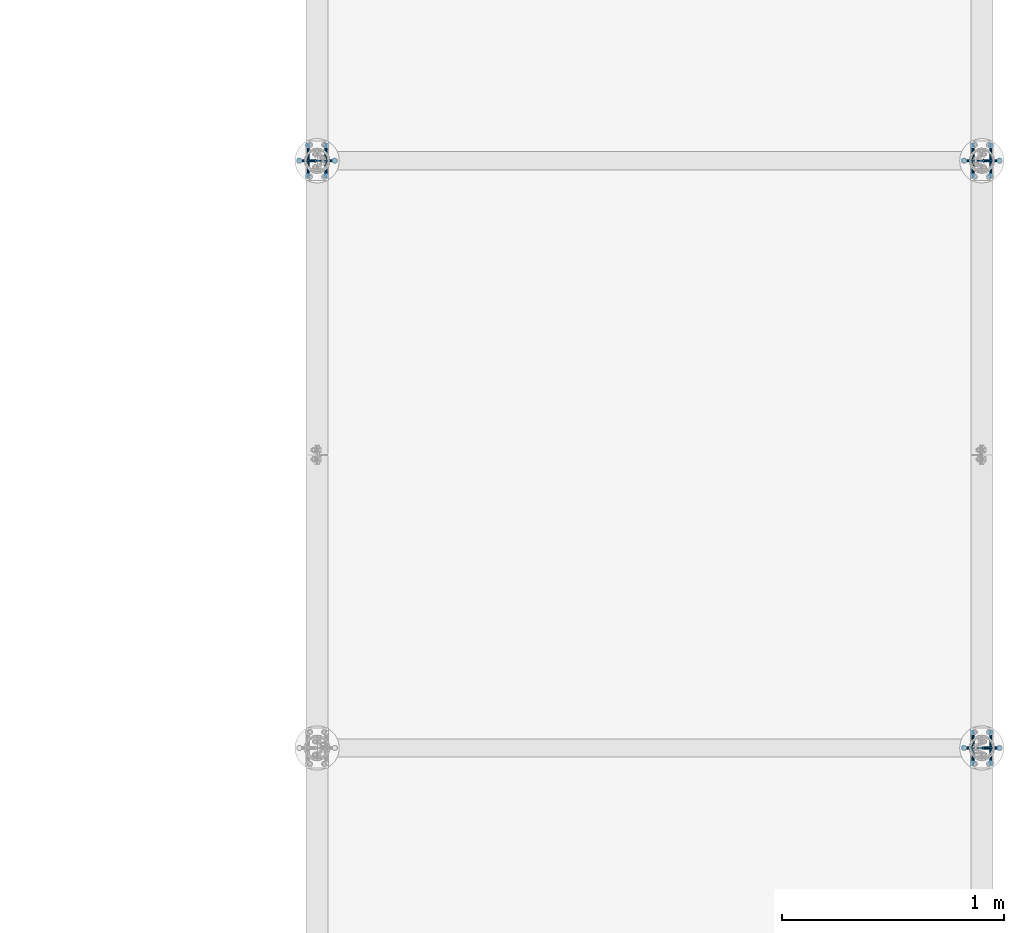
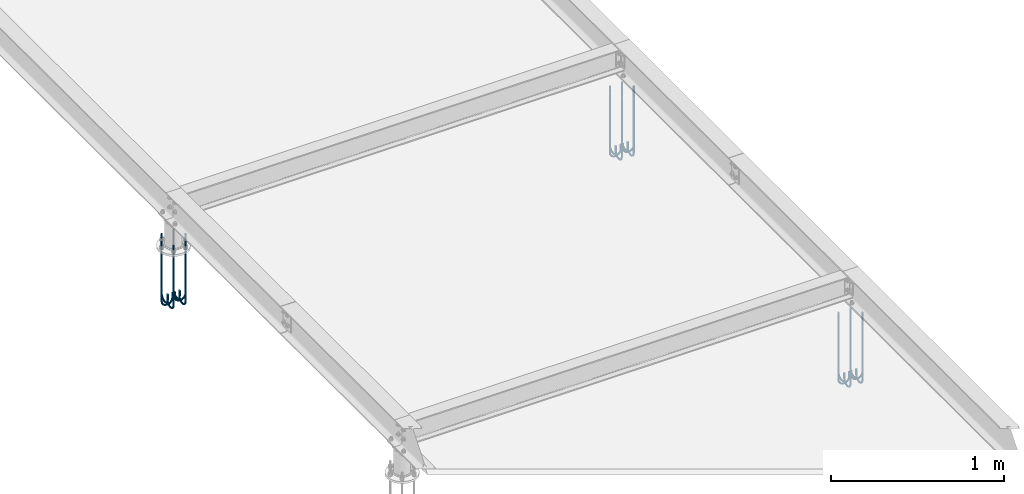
# One storey, part 11 of 84: 9 reinforcing bars.
"""IFC4 building model written with IfcOpenShell, lengths in metres."""

from ifc_helpers import new_model, entity, si_unit, frame, origin_with_axes, place, context, project, spatial, source, transform, mapped, element, save


model = new_model("IFC4")

# Units and contexts
model_context = context("Model", 3, precision=1e-05, world=origin_with_axes())
ifc_project = project(units=[si_unit("LENGTHUNIT", "METRE"), si_unit("AREAUNIT", "SQUARE_METRE"), si_unit("VOLUMEUNIT", "CUBIC_METRE"), si_unit("MASSUNIT", "GRAM", prefix="KILO"), si_unit("TIMEUNIT", "SECOND"), si_unit("PLANEANGLEUNIT", "RADIAN"), si_unit("SOLIDANGLEUNIT", "STERADIAN"), si_unit("THERMODYNAMICTEMPERATUREUNIT", "DEGREE_CELSIUS")], contexts=[model_context])

# Site, building, storey
placement_1 = place(None, origin_with_axes())
site = spatial("IfcSite", under=ifc_project, at=placement_1, Name="Italia", CompositionType="ELEMENT")
building = spatial("IfcBuilding", under=site, at=placement_1, Name="Tettoia", CompositionType="ELEMENT")
storey_placement = place(None, frame((0.0, 0.0, 4.199999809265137), z_axis=(0.0, 0.0, 1.0), x_axis=(1.0, 0.0, 0.0)))
storey = spatial("IfcBuildingStorey", under=building, at=storey_placement, Name="Storey 1", CompositionType="ELEMENT", Elevation=4.199999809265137)

# Reinforcing bars
shared_shape_1 = source(origin_with_axes(), model_context, "Body", "AdvancedSweptSolid", [
    entity("IfcSweptDiskSolid", entity("IfcIndexedPolyCurve", entity("IfcCartesianPointList3D", [[11.21, 4.65, 4.065], [11.21, 4.65, 3.642]]), [entity("IfcLineIndex", [1, 2])], False), 0.006),
])
placement_2 = place(placement_1, origin_with_axes())
reinforcing_bar_1_placement = place(placement_2, origin_with_axes())
element("IfcReinforcingBar", 1, at=reinforcing_bar_1_placement, inside=storey, BarLength=0.423, CrossSectionArea=0.0001131, NominalDiameter=0.012, context=model_context, shape_type="MappedRepresentation", body=[
    mapped(shared_shape_1, transform((0.120001, -0.0692821, 0.0), x_axis=(1.0, 0.0, 0.0), y_axis=(0.0, 1.0, 0.0), z_axis=(0.0, 0.0, 1.0), scale=1.0)),
    mapped(shared_shape_1, transform((0.0400009, -0.0692821, 0.0), x_axis=(1.0, 0.0, 0.0), y_axis=(0.0, 1.0, 0.0), z_axis=(0.0, 0.0, 1.0), scale=1.0)),
    mapped(shared_shape_1, transform((0.0, 0.0, 0.0), x_axis=(1.0, 0.0, 0.0), y_axis=(0.0, 1.0, 0.0), z_axis=(0.0, 0.0, 1.0), scale=1.0)),
    mapped(shared_shape_1, transform((0.0400009, 0.0692821, 0.0), x_axis=(1.0, 0.0, 0.0), y_axis=(0.0, 1.0, 0.0), z_axis=(0.0, 0.0, 1.0), scale=1.0)),
    mapped(shared_shape_1, transform((0.120001, 0.0692821, 0.0), x_axis=(1.0, 0.0, 0.0), y_axis=(0.0, 1.0, 0.0), z_axis=(0.0, 0.0, 1.0), scale=1.0)),
    mapped(shared_shape_1, transform((0.160002, 0.0, 0.0), x_axis=(1.0, 0.0, 0.0), y_axis=(0.0, 1.0, 0.0), z_axis=(0.0, 0.0, 1.0), scale=1.0)),
])
shared_shape_2 = source(origin_with_axes(), model_context, "Body", "AdvancedSweptSolid", [
    entity("IfcSweptDiskSolid", entity("IfcIndexedPolyCurve", entity("IfcCartesianPointList3D", [[11.21, 4.65, 3.642], [11.2127, 4.65, 3.62822]]), [entity("IfcLineIndex", [1, 2])], False), 0.006),
])
reinforcing_bar_2_placement = place(placement_2, origin_with_axes())
element("IfcReinforcingBar", 2, at=reinforcing_bar_2_placement, inside=storey, BarLength=0.0140465, CrossSectionArea=0.0001131, NominalDiameter=0.012, context=model_context, shape_type="MappedRepresentation", body=[
    mapped(shared_shape_2, transform((-0.449615, 9.3, 2.70227), x_axis=(0.923852, 0.0, 0.382749), y_axis=(0.0, -1.0, 0.0), z_axis=(0.382749, 0.0, -0.923852), scale=1.0)),
    mapped(shared_shape_2, transform((0.806538, 9.3, -1.73473), x_axis=(0.707114, 0.0, 0.707099), y_axis=(0.0, -1.0, 0.0), z_axis=(0.707099, 0.0, -0.707114), scale=1.0)),
    mapped(shared_shape_2, transform((6.6, 1.04154, -7.60408), x_axis=(0.0, -2.33501e-05, 1.0), y_axis=(1.0, 0.0, 0.0), z_axis=(0.0, 1.0, 2.33501e-05), scale=1.0)),
    mapped(shared_shape_2, transform((6.6, -2.98472, -5.35458), x_axis=(0.0, 0.382639, 0.923898), y_axis=(1.0, 0.0, 0.0), z_axis=(0.0, 0.923898, -0.382639), scale=1.0)),
    mapped(shared_shape_2, transform((6.68, 5.62262, -8.14165), x_axis=(0.0, -0.382719, 0.923865), y_axis=(1.0, 0.0, 0.0), z_axis=(0.0, 0.923865, 0.382719), scale=1.0)),
    mapped(shared_shape_2, transform((6.6, 5.62262, -8.14165), x_axis=(0.0, -0.382719, 0.923865), y_axis=(1.0, 0.0, 0.0), z_axis=(0.0, 0.923865, 0.382719), scale=1.0)),
    mapped(shared_shape_2, transform((7.69241, 9.3, -7.60413), x_axis=(-3.65972e-05, 0.0, 1.0), y_axis=(0.0, -1.0, 0.0), z_axis=(1.0, 0.0, 3.65972e-05), scale=1.0)),
    mapped(shared_shape_2, transform((6.68, -5.84388, -1.73532), x_axis=(0.0, 0.707074, 0.707139), y_axis=(1.0, 0.0, 0.0), z_axis=(0.0, 0.707139, -0.707074), scale=1.0)),
    mapped(shared_shape_2, transform((6.68, -2.98472, -5.35458), x_axis=(0.0, 0.382639, 0.923898), y_axis=(1.0, 0.0, 0.0), z_axis=(0.0, 0.923898, -0.382639), scale=1.0)),
    mapped(shared_shape_2, transform((6.68, 1.04154, -7.60408), x_axis=(0.0, -2.33501e-05, 1.0), y_axis=(1.0, 0.0, 0.0), z_axis=(0.0, 1.0, 2.33501e-05), scale=1.0)),
    mapped(shared_shape_2, transform((3.66566, 9.3, -5.35429), x_axis=(0.382674, 0.0, 0.923883), y_axis=(0.0, -1.0, 0.0), z_axis=(0.923883, 0.0, -0.382674), scale=1.0)),
    mapped(shared_shape_2, transform((12.2733, 9.3, -8.14165), x_axis=(-0.382719, 0.0, 0.923865), y_axis=(0.0, -1.0, 0.0), z_axis=(0.923865, 0.0, 0.382719), scale=1.0)),
    mapped(shared_shape_2, transform((15.9, -6.6294, 0.000373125), x_axis=(0.0, 1.0, -3.32892e-05), y_axis=(-1.0, 0.0, 0.0), z_axis=(0.0, 3.32892e-05, 1.0), scale=1.0)),
    mapped(shared_shape_2, transform((6.6, -5.84388, -1.73532), x_axis=(0.0, 0.707074, 0.707139), y_axis=(1.0, 0.0, 0.0), z_axis=(0.0, 0.707139, -0.707074), scale=1.0)),
    mapped(shared_shape_2, transform((0.0, 0.0, 0.0), x_axis=(1.0, 0.0, 0.0), y_axis=(0.0, 1.0, 0.0), z_axis=(0.0, 0.0, 1.0), scale=1.0)),
    mapped(shared_shape_2, transform((6.6, -7.10036, 2.70266), x_axis=(0.0, 0.923865, 0.382719), y_axis=(1.0, 0.0, 0.0), z_axis=(0.0, 0.382719, -0.923865), scale=1.0)),
    mapped(shared_shape_2, transform((2.24956, 0.0, -4.02617), x_axis=(0.923891, 0.0, 0.382657), y_axis=(0.0, 1.0, 0.0), z_axis=(-0.382657, 0.0, 0.923891), scale=1.0)),
    mapped(shared_shape_2, transform((15.9, -4.37972, -4.02617), x_axis=(0.0, 0.923891, 0.382657), y_axis=(-1.0, 0.0, 0.0), z_axis=(0.0, -0.382657, 0.923891), scale=1.0)),
    mapped(shared_shape_2, transform((14.8876, 0.0, -7.60413), x_axis=(3.65972e-05, 0.0, 1.0), y_axis=(0.0, 1.0, 0.0), z_axis=(-1.0, 0.0, 3.65972e-05), scale=1.0)),
    mapped(shared_shape_2, transform((15.98, -0.760603, -6.88516), x_axis=(0.0, 0.707139, 0.707074), y_axis=(-1.0, 0.0, 0.0), z_axis=(0.0, -0.707074, 0.707139), scale=1.0)),
    mapped(shared_shape_2, transform((5.86888, 0.0, -6.88526), x_axis=(0.707126, 0.0, 0.707088), y_axis=(0.0, 1.0, 0.0), z_axis=(-0.707088, 0.0, 0.707126), scale=1.0)),
    mapped(shared_shape_2, transform((6.68, 10.0606, -6.88516), x_axis=(0.0, -0.707139, 0.707074), y_axis=(1.0, 0.0, 0.0), z_axis=(0.0, 0.707074, 0.707139), scale=1.0)),
    mapped(shared_shape_2, transform((6.6, 10.0606, -6.88516), x_axis=(0.0, -0.707139, 0.707074), y_axis=(1.0, 0.0, 0.0), z_axis=(0.0, 0.707074, 0.707139), scale=1.0)),
    mapped(shared_shape_2, transform((6.68, 13.6797, -4.02617), x_axis=(0.0, -0.923891, 0.382657), y_axis=(1.0, 0.0, 0.0), z_axis=(0.0, 0.382657, 0.923891), scale=1.0)),
    mapped(shared_shape_2, transform((6.6, 13.6797, -4.02617), x_axis=(0.0, -0.923891, 0.382657), y_axis=(1.0, 0.0, 0.0), z_axis=(0.0, 0.382657, 0.923891), scale=1.0)),
    mapped(shared_shape_2, transform((6.68, 15.9294, 0.000373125), x_axis=(0.0, -1.0, -3.32892e-05), y_axis=(1.0, 0.0, 0.0), z_axis=(0.0, -3.32892e-05, 1.0), scale=1.0)),
    mapped(shared_shape_2, transform((6.6, 15.9294, 0.000373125), x_axis=(0.0, -1.0, -3.32892e-05), y_axis=(1.0, 0.0, 0.0), z_axis=(0.0, -3.32892e-05, 1.0), scale=1.0)),
    mapped(shared_shape_2, transform((15.98, 3.67738, -8.14165), x_axis=(0.0, 0.382719, 0.923865), y_axis=(-1.0, 0.0, 0.0), z_axis=(0.0, -0.923865, 0.382719), scale=1.0)),
    mapped(shared_shape_2, transform((6.68, -7.10036, 2.70266), x_axis=(0.0, 0.923865, 0.382719), y_axis=(1.0, 0.0, 0.0), z_axis=(0.0, 0.382719, -0.923865), scale=1.0)),
    mapped(shared_shape_2, transform((15.9, 3.67738, -8.14165), x_axis=(0.0, 0.382719, 0.923865), y_axis=(-1.0, 0.0, 0.0), z_axis=(0.0, -0.923865, 0.382719), scale=1.0)),
    mapped(shared_shape_2, transform((15.9, -0.760603, -6.88516), x_axis=(0.0, 0.707139, 0.707074), y_axis=(-1.0, 0.0, 0.0), z_axis=(0.0, -0.707074, 0.707139), scale=1.0)),
    mapped(shared_shape_2, transform((18.9143, 0.0, -5.35429), x_axis=(-0.382674, 0.0, 0.923883), y_axis=(0.0, 1.0, 0.0), z_axis=(-0.923883, 0.0, -0.382674), scale=1.0)),
    mapped(shared_shape_2, transform((15.98, -4.37972, -4.02617), x_axis=(0.0, 0.923891, 0.382657), y_axis=(-1.0, 0.0, 0.0), z_axis=(0.0, -0.382657, 0.923891), scale=1.0)),
    mapped(shared_shape_2, transform((21.7735, 0.0, -1.73473), x_axis=(-0.707114, 0.0, 0.707099), y_axis=(0.0, 1.0, 0.0), z_axis=(-0.707099, 0.0, -0.707114), scale=1.0)),
    mapped(shared_shape_2, transform((15.98, -6.6294, 0.000373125), x_axis=(0.0, 1.0, -3.32892e-05), y_axis=(-1.0, 0.0, 0.0), z_axis=(0.0, 3.32892e-05, 1.0), scale=1.0)),
    mapped(shared_shape_2, transform((23.0296, 0.0, 2.70227), x_axis=(-0.923852, 0.0, 0.382749), y_axis=(0.0, 1.0, 0.0), z_axis=(-0.382749, 0.0, -0.923852), scale=1.0)),
    mapped(shared_shape_2, transform((10.3067, 0.0, -8.14165), x_axis=(0.382719, 0.0, 0.923865), y_axis=(0.0, 1.0, 0.0), z_axis=(-0.923865, 0.0, 0.382719), scale=1.0)),
    mapped(shared_shape_2, transform((15.9, 16.4004, 2.70266), x_axis=(0.0, -0.923865, 0.382719), y_axis=(-1.0, 0.0, 0.0), z_axis=(0.0, -0.382719, -0.923865), scale=1.0)),
    mapped(shared_shape_2, transform((15.9, 12.2847, -5.35458), x_axis=(0.0, -0.382639, 0.923898), y_axis=(-1.0, 0.0, 0.0), z_axis=(0.0, -0.923898, -0.382639), scale=1.0)),
    mapped(shared_shape_2, transform((15.9, 15.1439, -1.73532), x_axis=(0.0, -0.707074, 0.707139), y_axis=(-1.0, 0.0, 0.0), z_axis=(0.0, -0.707139, -0.707074), scale=1.0)),
    mapped(shared_shape_2, transform((15.98, 8.25846, -7.60408), x_axis=(0.0, 2.33501e-05, 1.0), y_axis=(-1.0, 0.0, 0.0), z_axis=(0.0, -1.0, 2.33501e-05), scale=1.0)),
    mapped(shared_shape_2, transform((15.9, 8.25846, -7.60408), x_axis=(0.0, 2.33501e-05, 1.0), y_axis=(-1.0, 0.0, 0.0), z_axis=(0.0, -1.0, 2.33501e-05), scale=1.0)),
    mapped(shared_shape_2, transform((16.7111, 9.3, -6.88526), x_axis=(-0.707126, 0.0, 0.707088), y_axis=(0.0, -1.0, 0.0), z_axis=(0.707088, 0.0, 0.707126), scale=1.0)),
    mapped(shared_shape_2, transform((15.98, 16.4004, 2.70266), x_axis=(0.0, -0.923865, 0.382719), y_axis=(-1.0, 0.0, 0.0), z_axis=(0.0, -0.382719, -0.923865), scale=1.0)),
    mapped(shared_shape_2, transform((15.98, 15.1439, -1.73532), x_axis=(0.0, -0.707074, 0.707139), y_axis=(-1.0, 0.0, 0.0), z_axis=(0.0, -0.707139, -0.707074), scale=1.0)),
    mapped(shared_shape_2, transform((22.58, 9.3, 0.0), x_axis=(-1.0, 0.0, 0.0), y_axis=(0.0, -1.0, 0.0), z_axis=(0.0, 0.0, 1.0), scale=1.0)),
    mapped(shared_shape_2, transform((20.3304, 9.3, -4.02617), x_axis=(-0.923891, 0.0, 0.382657), y_axis=(0.0, -1.0, 0.0), z_axis=(0.382657, 0.0, 0.923891), scale=1.0)),
    mapped(shared_shape_2, transform((15.98, 12.2847, -5.35458), x_axis=(0.0, -0.382639, 0.923898), y_axis=(-1.0, 0.0, 0.0), z_axis=(0.0, -0.923898, -0.382639), scale=1.0)),
])
shared_shape_3 = source(origin_with_axes(), model_context, "Body", "AdvancedSweptSolid", [
    entity("IfcSweptDiskSolid", entity("IfcIndexedPolyCurve", entity("IfcCartesianPointList3D", [[11.282, 4.65, 3.642], [11.282, 4.65, 3.678]]), [entity("IfcLineIndex", [1, 2])], False), 0.006),
])
reinforcing_bar_3_placement = place(placement_2, origin_with_axes())
element("IfcReinforcingBar", 3, at=reinforcing_bar_3_placement, inside=storey, BarLength=0.0359998, CrossSectionArea=0.0001131, NominalDiameter=0.012, context=model_context, shape_type="MappedRepresentation", body=[
    mapped(shared_shape_3, transform((0.0480003, 0.00271797, 0.0), x_axis=(1.0, 0.0, 0.0), y_axis=(0.0, 1.0, 0.0), z_axis=(0.0, 0.0, 1.0), scale=1.0)),
    mapped(shared_shape_3, transform((-0.0319996, 0.00271797, 0.0), x_axis=(1.0, 0.0, 0.0), y_axis=(0.0, 1.0, 0.0), z_axis=(0.0, 0.0, 1.0), scale=1.0)),
    mapped(shared_shape_3, transform((0.0, 0.0, 0.0), x_axis=(1.0, 0.0, 0.0), y_axis=(0.0, 1.0, 0.0), z_axis=(0.0, 0.0, 1.0), scale=1.0)),
    mapped(shared_shape_3, transform((-0.0319996, -0.00271797, 0.0), x_axis=(1.0, 0.0, 0.0), y_axis=(0.0, 1.0, 0.0), z_axis=(0.0, 0.0, 1.0), scale=1.0)),
    mapped(shared_shape_3, transform((0.0480003, -0.00271797, 0.0), x_axis=(1.0, 0.0, 0.0), y_axis=(0.0, 1.0, 0.0), z_axis=(0.0, 0.0, 1.0), scale=1.0)),
    mapped(shared_shape_3, transform((0.0160007, 0.0, 0.0), x_axis=(1.0, 0.0, 0.0), y_axis=(0.0, 1.0, 0.0), z_axis=(0.0, 0.0, 1.0), scale=1.0)),
])
shared_shape_4 = source(origin_with_axes(), model_context, "Body", "AdvancedSweptSolid", [
    entity("IfcSweptDiskSolid", entity("IfcIndexedPolyCurve", entity("IfcCartesianPointList3D", [[8.21, 7.3, 4.065], [8.21, 7.3, 3.642]]), [entity("IfcLineIndex", [1, 2])], False), 0.006),
])
reinforcing_bar_4_placement = place(placement_2, origin_with_axes())
element("IfcReinforcingBar", 4, at=reinforcing_bar_4_placement, inside=storey, BarLength=0.423, CrossSectionArea=0.0001131, NominalDiameter=0.012, context=model_context, shape_type="MappedRepresentation", body=[
    mapped(shared_shape_4, transform((0.120001, -0.0692821, 0.0), x_axis=(1.0, 0.0, 0.0), y_axis=(0.0, 1.0, 0.0), z_axis=(0.0, 0.0, 1.0), scale=1.0)),
    mapped(shared_shape_4, transform((0.0400009, -0.0692821, 0.0), x_axis=(1.0, 0.0, 0.0), y_axis=(0.0, 1.0, 0.0), z_axis=(0.0, 0.0, 1.0), scale=1.0)),
    mapped(shared_shape_4, transform((0.0, 0.0, 0.0), x_axis=(1.0, 0.0, 0.0), y_axis=(0.0, 1.0, 0.0), z_axis=(0.0, 0.0, 1.0), scale=1.0)),
    mapped(shared_shape_4, transform((0.0400009, 0.0692821, 0.0), x_axis=(1.0, 0.0, 0.0), y_axis=(0.0, 1.0, 0.0), z_axis=(0.0, 0.0, 1.0), scale=1.0)),
    mapped(shared_shape_4, transform((0.120001, 0.0692821, 0.0), x_axis=(1.0, 0.0, 0.0), y_axis=(0.0, 1.0, 0.0), z_axis=(0.0, 0.0, 1.0), scale=1.0)),
    mapped(shared_shape_4, transform((0.160002, 0.0, 0.0), x_axis=(1.0, 0.0, 0.0), y_axis=(0.0, 1.0, 0.0), z_axis=(0.0, 0.0, 1.0), scale=1.0)),
])
shared_shape_5 = source(origin_with_axes(), model_context, "Body", "AdvancedSweptSolid", [
    entity("IfcSweptDiskSolid", entity("IfcIndexedPolyCurve", entity("IfcCartesianPointList3D", [[8.21, 7.3, 3.642], [8.21274, 7.3, 3.62822]]), [entity("IfcLineIndex", [1, 2])], False), 0.006),
])
reinforcing_bar_5_placement = place(placement_2, origin_with_axes())
element("IfcReinforcingBar", 5, at=reinforcing_bar_5_placement, inside=storey, BarLength=0.0140465, CrossSectionArea=0.0001131, NominalDiameter=0.012, context=model_context, shape_type="MappedRepresentation", body=[
    mapped(shared_shape_5, transform((-0.678057, 14.6, 3.85052), x_axis=(0.923852, 0.0, 0.382749), y_axis=(0.0, -1.0, 0.0), z_axis=(0.382749, 0.0, -0.923852), scale=1.0)),
    mapped(shared_shape_5, transform((-0.0721188, 14.6, 0.386569), x_axis=(0.707114, 0.0, 0.707099), y_axis=(0.0, -1.0, 0.0), z_axis=(0.707099, 0.0, -0.707114), scale=1.0)),
    mapped(shared_shape_5, transform((0.95, 3.69158, -4.60413), x_axis=(0.0, -3.66271e-05, 1.0), y_axis=(1.0, 0.0, 0.0), z_axis=(0.0, 1.0, 3.66271e-05), scale=1.0)),
    mapped(shared_shape_5, transform((0.95, 7.12458, -5.37005), x_axis=(0.0, -0.382731, 0.92386), y_axis=(1.0, 0.0, 0.0), z_axis=(0.0, 0.92386, 0.382731), scale=1.0)),
    mapped(shared_shape_5, transform((1.03, 10.589, -4.764), x_axis=(0.0, -0.707126, 0.707088), y_axis=(1.0, 0.0, 0.0), z_axis=(0.0, 0.707088, 0.707126), scale=1.0)),
    mapped(shared_shape_5, transform((0.95, 10.589, -4.764), x_axis=(0.0, -0.707126, 0.707088), y_axis=(1.0, 0.0, 0.0), z_axis=(0.0, 0.707088, 0.707126), scale=1.0)),
    mapped(shared_shape_5, transform((1.03, 13.558, -2.8782), x_axis=(0.0, -0.923891, 0.382657), y_axis=(1.0, 0.0, 0.0), z_axis=(0.0, 0.382657, 0.923891), scale=1.0)),
    mapped(shared_shape_5, transform((1.03, 7.12458, -5.37005), x_axis=(0.0, -0.382731, 0.92386), y_axis=(1.0, 0.0, 0.0), z_axis=(0.0, 0.92386, 0.382731), scale=1.0)),
    mapped(shared_shape_5, transform((4.6923, 14.6, -4.60413), x_axis=(-3.66271e-05, 0.0, 1.0), y_axis=(0.0, -1.0, 0.0), z_axis=(1.0, 0.0, 3.66271e-05), scale=1.0)),
    mapped(shared_shape_5, transform((8.12518, 14.6, -5.37005), x_axis=(-0.382719, 0.0, 0.923865), y_axis=(0.0, -1.0, 0.0), z_axis=(0.923865, 0.0, 0.382719), scale=1.0)),
    mapped(shared_shape_5, transform((0.95, 13.558, -2.8782), x_axis=(0.0, -0.923891, 0.382657), y_axis=(1.0, 0.0, 0.0), z_axis=(0.0, 0.382657, 0.923891), scale=1.0)),
    mapped(shared_shape_5, transform((1.03, 0.813086, -2.58276), x_axis=(0.0, 0.382657, 0.923891), y_axis=(1.0, 0.0, 0.0), z_axis=(0.0, 0.923891, -0.382657), scale=1.0)),
    mapped(shared_shape_5, transform((1.03, 3.69158, -4.60413), x_axis=(0.0, -3.66271e-05, 1.0), y_axis=(1.0, 0.0, 0.0), z_axis=(0.0, 1.0, 3.66271e-05), scale=1.0)),
    mapped(shared_shape_5, transform((15.55, -0.979401, 0.000273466), x_axis=(0.0, 1.0, -3.33041e-05), y_axis=(-1.0, 0.0, 0.0), z_axis=(0.0, 3.33041e-05, 1.0), scale=1.0)),
    mapped(shared_shape_5, transform((0.95, 0.813086, -2.58276), x_axis=(0.0, 0.382657, 0.923891), y_axis=(1.0, 0.0, 0.0), z_axis=(0.0, 0.923891, -0.382657), scale=1.0)),
    mapped(shared_shape_5, transform((1.81369, 14.6, -2.58264), x_axis=(0.382674, 0.0, 0.923883), y_axis=(0.0, -1.0, 0.0), z_axis=(0.923883, 0.0, -0.382674), scale=1.0)),
    mapped(shared_shape_5, transform((0.95, -1.67877, 3.85082), x_axis=(0.0, 0.923865, 0.382719), y_axis=(1.0, 0.0, 0.0), z_axis=(0.0, 0.382719, -0.923865), scale=1.0)),
    mapped(shared_shape_5, transform((0.95, -1.07265, 0.386097), x_axis=(0.0, 0.707074, 0.707139), y_axis=(1.0, 0.0, 0.0), z_axis=(0.0, 0.707139, -0.707074), scale=1.0)),
    mapped(shared_shape_5, transform((1.03, -1.07265, 0.386097), x_axis=(0.0, 0.707074, 0.707139), y_axis=(1.0, 0.0, 0.0), z_axis=(0.0, 0.707139, -0.707074), scale=1.0)),
    mapped(shared_shape_5, transform((11.8877, 0.0, -4.60413), x_axis=(3.66271e-05, 0.0, 1.0), y_axis=(0.0, 1.0, 0.0), z_axis=(-1.0, 0.0, 3.66271e-05), scale=1.0)),
    mapped(shared_shape_5, transform((1.03, -1.67877, 3.85082), x_axis=(0.0, 0.923865, 0.382719), y_axis=(1.0, 0.0, 0.0), z_axis=(0.0, 0.382719, -0.923865), scale=1.0)),
    mapped(shared_shape_5, transform((14.7663, 0.0, -2.58264), x_axis=(-0.382674, 0.0, 0.923883), y_axis=(0.0, 1.0, 0.0), z_axis=(-0.923883, 0.0, -0.382674), scale=1.0)),
    mapped(shared_shape_5, transform((15.63, 7.47542, -5.37005), x_axis=(0.0, 0.382731, 0.92386), y_axis=(-1.0, 0.0, 0.0), z_axis=(0.0, -0.92386, 0.382731), scale=1.0)),
    mapped(shared_shape_5, transform((0.0, 0.0, 0.0), x_axis=(1.0, 0.0, 0.0), y_axis=(0.0, 1.0, 0.0), z_axis=(0.0, 0.0, 1.0), scale=1.0)),
    mapped(shared_shape_5, transform((1.03, 15.5794, 0.000273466), x_axis=(0.0, -1.0, -3.33041e-05), y_axis=(1.0, 0.0, 0.0), z_axis=(0.0, -3.33041e-05, 1.0), scale=1.0)),
    mapped(shared_shape_5, transform((0.95, 15.5794, 0.000273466), x_axis=(0.0, -1.0, -3.33041e-05), y_axis=(1.0, 0.0, 0.0), z_axis=(0.0, -3.33041e-05, 1.0), scale=1.0)),
    mapped(shared_shape_5, transform((4.99025, 0.0, -4.764), x_axis=(0.707126, 0.0, 0.707088), y_axis=(0.0, 1.0, 0.0), z_axis=(-0.707088, 0.0, 0.707126), scale=1.0)),
    mapped(shared_shape_5, transform((2.02123, 0.0, -2.8782), x_axis=(0.923891, 0.0, 0.382657), y_axis=(0.0, 1.0, 0.0), z_axis=(-0.382657, 0.0, 0.923891), scale=1.0)),
    mapped(shared_shape_5, transform((15.55, 7.47542, -5.37005), x_axis=(0.0, 0.382731, 0.92386), y_axis=(-1.0, 0.0, 0.0), z_axis=(0.0, -0.92386, 0.382731), scale=1.0)),
    mapped(shared_shape_5, transform((15.63, -0.979401, 0.000273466), x_axis=(0.0, 1.0, -3.33041e-05), y_axis=(-1.0, 0.0, 0.0), z_axis=(0.0, 3.33041e-05, 1.0), scale=1.0)),
    mapped(shared_shape_5, transform((17.2581, 0.0, 3.85052), x_axis=(-0.923852, 0.0, 0.382749), y_axis=(0.0, 1.0, 0.0), z_axis=(-0.382749, 0.0, -0.923852), scale=1.0)),
    mapped(shared_shape_5, transform((16.6521, 0.0, 0.386569), x_axis=(-0.707114, 0.0, 0.707099), y_axis=(0.0, 1.0, 0.0), z_axis=(-0.707099, 0.0, -0.707114), scale=1.0)),
    mapped(shared_shape_5, transform((8.45482, 0.0, -5.37005), x_axis=(0.382719, 0.0, 0.923865), y_axis=(0.0, 1.0, 0.0), z_axis=(-0.923865, 0.0, 0.382719), scale=1.0)),
    mapped(shared_shape_5, transform((14.5588, 14.6, -2.8782), x_axis=(-0.923891, 0.0, 0.382657), y_axis=(0.0, -1.0, 0.0), z_axis=(0.382657, 0.0, 0.923891), scale=1.0)),
    mapped(shared_shape_5, transform((15.55, 13.7869, -2.58276), x_axis=(0.0, -0.382657, 0.923891), y_axis=(-1.0, 0.0, 0.0), z_axis=(0.0, -0.923891, -0.382657), scale=1.0)),
    mapped(shared_shape_5, transform((11.5897, 14.6, -4.764), x_axis=(-0.707126, 0.0, 0.707088), y_axis=(0.0, -1.0, 0.0), z_axis=(0.707088, 0.0, 0.707126), scale=1.0)),
    mapped(shared_shape_5, transform((15.55, 16.2788, 3.85082), x_axis=(0.0, -0.923865, 0.382719), y_axis=(-1.0, 0.0, 0.0), z_axis=(0.0, -0.382719, -0.923865), scale=1.0)),
    mapped(shared_shape_5, transform((15.55, 15.6727, 0.386097), x_axis=(0.0, -0.707074, 0.707139), y_axis=(-1.0, 0.0, 0.0), z_axis=(0.0, -0.707139, -0.707074), scale=1.0)),
    mapped(shared_shape_5, transform((15.55, 10.9084, -4.60413), x_axis=(0.0, 3.66271e-05, 1.0), y_axis=(-1.0, 0.0, 0.0), z_axis=(0.0, -1.0, 3.66271e-05), scale=1.0)),
    mapped(shared_shape_5, transform((15.63, 1.04195, -2.8782), x_axis=(0.0, 0.923891, 0.382657), y_axis=(-1.0, 0.0, 0.0), z_axis=(0.0, -0.382657, 0.923891), scale=1.0)),
    mapped(shared_shape_5, transform((15.55, 4.01097, -4.764), x_axis=(0.0, 0.707126, 0.707088), y_axis=(-1.0, 0.0, 0.0), z_axis=(0.0, -0.707088, 0.707126), scale=1.0)),
    mapped(shared_shape_5, transform((15.63, 10.9084, -4.60413), x_axis=(0.0, 3.66271e-05, 1.0), y_axis=(-1.0, 0.0, 0.0), z_axis=(0.0, -1.0, 3.66271e-05), scale=1.0)),
    mapped(shared_shape_5, transform((15.63, 4.01097, -4.764), x_axis=(0.0, 0.707126, 0.707088), y_axis=(-1.0, 0.0, 0.0), z_axis=(0.0, -0.707088, 0.707126), scale=1.0)),
    mapped(shared_shape_5, transform((15.55, 1.04195, -2.8782), x_axis=(0.0, 0.923891, 0.382657), y_axis=(-1.0, 0.0, 0.0), z_axis=(0.0, -0.382657, 0.923891), scale=1.0)),
    mapped(shared_shape_5, transform((15.63, 16.2788, 3.85082), x_axis=(0.0, -0.923865, 0.382719), y_axis=(-1.0, 0.0, 0.0), z_axis=(0.0, -0.382719, -0.923865), scale=1.0)),
    mapped(shared_shape_5, transform((15.63, 15.6727, 0.386097), x_axis=(0.0, -0.707074, 0.707139), y_axis=(-1.0, 0.0, 0.0), z_axis=(0.0, -0.707139, -0.707074), scale=1.0)),
    mapped(shared_shape_5, transform((15.63, 13.7869, -2.58276), x_axis=(0.0, -0.382657, 0.923891), y_axis=(-1.0, 0.0, 0.0), z_axis=(0.0, -0.923891, -0.382657), scale=1.0)),
    mapped(shared_shape_5, transform((16.58, 14.6, 0.0), x_axis=(-1.0, 0.0, 0.0), y_axis=(0.0, -1.0, 0.0), z_axis=(0.0, 0.0, 1.0), scale=1.0)),
])
shared_shape_6 = source(origin_with_axes(), model_context, "Body", "AdvancedSweptSolid", [
    entity("IfcSweptDiskSolid", entity("IfcIndexedPolyCurve", entity("IfcCartesianPointList3D", [[8.282, 7.3, 3.642], [8.282, 7.3, 3.678]]), [entity("IfcLineIndex", [1, 2])], False), 0.006),
])
reinforcing_bar_6_placement = place(placement_2, origin_with_axes())
element("IfcReinforcingBar", 6, at=reinforcing_bar_6_placement, inside=storey, BarLength=0.0359998, CrossSectionArea=0.0001131, NominalDiameter=0.012, context=model_context, shape_type="MappedRepresentation", body=[
    mapped(shared_shape_6, transform((0.0480003, 0.00271797, 0.0), x_axis=(1.0, 0.0, 0.0), y_axis=(0.0, 1.0, 0.0), z_axis=(0.0, 0.0, 1.0), scale=1.0)),
    mapped(shared_shape_6, transform((-0.0319996, 0.00271797, 0.0), x_axis=(1.0, 0.0, 0.0), y_axis=(0.0, 1.0, 0.0), z_axis=(0.0, 0.0, 1.0), scale=1.0)),
    mapped(shared_shape_6, transform((0.0, 0.0, 0.0), x_axis=(1.0, 0.0, 0.0), y_axis=(0.0, 1.0, 0.0), z_axis=(0.0, 0.0, 1.0), scale=1.0)),
    mapped(shared_shape_6, transform((-0.0319996, -0.00271797, 0.0), x_axis=(1.0, 0.0, 0.0), y_axis=(0.0, 1.0, 0.0), z_axis=(0.0, 0.0, 1.0), scale=1.0)),
    mapped(shared_shape_6, transform((0.0480003, -0.00271797, 0.0), x_axis=(1.0, 0.0, 0.0), y_axis=(0.0, 1.0, 0.0), z_axis=(0.0, 0.0, 1.0), scale=1.0)),
    mapped(shared_shape_6, transform((0.0160007, 0.0, 0.0), x_axis=(1.0, 0.0, 0.0), y_axis=(0.0, 1.0, 0.0), z_axis=(0.0, 0.0, 1.0), scale=1.0)),
])
shared_shape_7 = source(origin_with_axes(), model_context, "Body", "AdvancedSweptSolid", [
    entity("IfcSweptDiskSolid", entity("IfcIndexedPolyCurve", entity("IfcCartesianPointList3D", [[11.21, 7.3, 4.06], [11.21, 7.3, 3.642]]), [entity("IfcLineIndex", [1, 2])], False), 0.006),
])
reinforcing_bar_7_placement = place(placement_2, origin_with_axes())
element("IfcReinforcingBar", 7, at=reinforcing_bar_7_placement, inside=storey, BarLength=0.418, CrossSectionArea=0.0001131, NominalDiameter=0.012, context=model_context, shape_type="MappedRepresentation", body=[
    mapped(shared_shape_7, transform((0.120001, -0.0692825, 0.0), x_axis=(1.0, 0.0, 0.0), y_axis=(0.0, 1.0, 0.0), z_axis=(0.0, 0.0, 1.0), scale=1.0)),
    mapped(shared_shape_7, transform((0.0400009, -0.0692825, 0.0), x_axis=(1.0, 0.0, 0.0), y_axis=(0.0, 1.0, 0.0), z_axis=(0.0, 0.0, 1.0), scale=1.0)),
    mapped(shared_shape_7, transform((0.0, 0.0, 0.0), x_axis=(1.0, 0.0, 0.0), y_axis=(0.0, 1.0, 0.0), z_axis=(0.0, 0.0, 1.0), scale=1.0)),
    mapped(shared_shape_7, transform((0.0400009, 0.0692816, 0.0), x_axis=(1.0, 0.0, 0.0), y_axis=(0.0, 1.0, 0.0), z_axis=(0.0, 0.0, 1.0), scale=1.0)),
    mapped(shared_shape_7, transform((0.120001, 0.0692816, 0.0), x_axis=(1.0, 0.0, 0.0), y_axis=(0.0, 1.0, 0.0), z_axis=(0.0, 0.0, 1.0), scale=1.0)),
    mapped(shared_shape_7, transform((0.160002, 0.0, 0.0), x_axis=(1.0, 0.0, 0.0), y_axis=(0.0, 1.0, 0.0), z_axis=(0.0, 0.0, 1.0), scale=1.0)),
])
shared_shape_8 = source(origin_with_axes(), model_context, "Body", "AdvancedSweptSolid", [
    entity("IfcSweptDiskSolid", entity("IfcIndexedPolyCurve", entity("IfcCartesianPointList3D", [[11.21, 7.3, 3.642], [11.2127, 7.3, 3.62822]]), [entity("IfcLineIndex", [1, 2])], False), 0.006),
])
reinforcing_bar_8_placement = place(placement_2, origin_with_axes())
element("IfcReinforcingBar", 8, at=reinforcing_bar_8_placement, inside=storey, BarLength=0.0140465, CrossSectionArea=0.0001131, NominalDiameter=0.012, context=model_context, shape_type="MappedRepresentation", body=[
    mapped(shared_shape_8, transform((-0.449615, 14.6, 2.70227), x_axis=(0.923852, 0.0, 0.382749), y_axis=(0.0, -1.0, 0.0), z_axis=(0.382749, 0.0, -0.923852), scale=1.0)),
    mapped(shared_shape_8, transform((0.806538, 14.6, -1.73473), x_axis=(0.707114, 0.0, 0.707099), y_axis=(0.0, -1.0, 0.0), z_axis=(0.707099, 0.0, -0.707114), scale=1.0)),
    mapped(shared_shape_8, transform((3.95, 3.69169, -7.60413), x_axis=(0.0, -3.65972e-05, 1.0), y_axis=(1.0, 0.0, 0.0), z_axis=(0.0, 1.0, 3.65972e-05), scale=1.0)),
    mapped(shared_shape_8, transform((3.95, -0.334886, -5.35444), x_axis=(0.0, 0.382657, 0.923891), y_axis=(1.0, 0.0, 0.0), z_axis=(0.0, 0.923891, -0.382657), scale=1.0)),
    mapped(shared_shape_8, transform((4.03, 8.27277, -8.14163), x_axis=(0.0, -0.382731, 0.92386), y_axis=(1.0, 0.0, 0.0), z_axis=(0.0, 0.92386, 0.382731), scale=1.0)),
    mapped(shared_shape_8, transform((3.95, 8.27277, -8.14163), x_axis=(0.0, -0.382731, 0.92386), y_axis=(1.0, 0.0, 0.0), z_axis=(0.0, 0.92386, 0.382731), scale=1.0)),
    mapped(shared_shape_8, transform((7.69241, 14.6, -7.60413), x_axis=(-3.65972e-05, 0.0, 1.0), y_axis=(0.0, -1.0, 0.0), z_axis=(1.0, 0.0, 3.65972e-05), scale=1.0)),
    mapped(shared_shape_8, transform((4.03, 12.7104, -6.88526), x_axis=(0.0, -0.707126, 0.707088), y_axis=(1.0, 0.0, 0.0), z_axis=(0.0, 0.707088, 0.707126), scale=1.0)),
    mapped(shared_shape_8, transform((3.95, 12.7104, -6.88526), x_axis=(0.0, -0.707126, 0.707088), y_axis=(1.0, 0.0, 0.0), z_axis=(0.0, 0.707088, 0.707126), scale=1.0)),
    mapped(shared_shape_8, transform((3.66566, 14.6, -5.35429), x_axis=(0.382674, 0.0, 0.923883), y_axis=(0.0, -1.0, 0.0), z_axis=(0.923883, 0.0, -0.382674), scale=1.0)),
    mapped(shared_shape_8, transform((4.03, 16.3297, -4.02617), x_axis=(0.0, -0.923891, 0.382657), y_axis=(1.0, 0.0, 0.0), z_axis=(0.0, 0.382657, 0.923891), scale=1.0)),
    mapped(shared_shape_8, transform((3.95, 16.3297, -4.02617), x_axis=(0.0, -0.923891, 0.382657), y_axis=(1.0, 0.0, 0.0), z_axis=(0.0, 0.382657, 0.923891), scale=1.0)),
    mapped(shared_shape_8, transform((4.03, -0.334886, -5.35444), x_axis=(0.0, 0.382657, 0.923891), y_axis=(1.0, 0.0, 0.0), z_axis=(0.0, 0.923891, -0.382657), scale=1.0)),
    mapped(shared_shape_8, transform((4.03, 3.69169, -7.60413), x_axis=(0.0, -3.65972e-05, 1.0), y_axis=(1.0, 0.0, 0.0), z_axis=(0.0, 1.0, 3.65972e-05), scale=1.0)),
    mapped(shared_shape_8, transform((18.55, -3.9794, 0.000373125), x_axis=(0.0, 1.0, -3.32892e-05), y_axis=(-1.0, 0.0, 0.0), z_axis=(0.0, 3.32892e-05, 1.0), scale=1.0)),
    mapped(shared_shape_8, transform((12.2733, 14.6, -8.14165), x_axis=(-0.382719, 0.0, 0.923865), y_axis=(0.0, -1.0, 0.0), z_axis=(0.923865, 0.0, 0.382719), scale=1.0)),
    mapped(shared_shape_8, transform((3.95, -4.45036, 2.70266), x_axis=(0.0, 0.923865, 0.382719), y_axis=(1.0, 0.0, 0.0), z_axis=(0.0, 0.382719, -0.923865), scale=1.0)),
    mapped(shared_shape_8, transform((3.95, -3.19388, -1.73532), x_axis=(0.0, 0.707074, 0.707139), y_axis=(1.0, 0.0, 0.0), z_axis=(0.0, 0.707139, -0.707074), scale=1.0)),
    mapped(shared_shape_8, transform((18.55, -1.72972, -4.02617), x_axis=(0.0, 0.923891, 0.382657), y_axis=(-1.0, 0.0, 0.0), z_axis=(0.0, -0.382657, 0.923891), scale=1.0)),
    mapped(shared_shape_8, transform((4.03, -3.19388, -1.73532), x_axis=(0.0, 0.707074, 0.707139), y_axis=(1.0, 0.0, 0.0), z_axis=(0.0, 0.707139, -0.707074), scale=1.0)),
    mapped(shared_shape_8, transform((2.24956, 0.0, -4.02617), x_axis=(0.923891, 0.0, 0.382657), y_axis=(0.0, 1.0, 0.0), z_axis=(-0.382657, 0.0, 0.923891), scale=1.0)),
    mapped(shared_shape_8, transform((0.0, 0.0, 0.0), x_axis=(1.0, 0.0, 0.0), y_axis=(0.0, 1.0, 0.0), z_axis=(0.0, 0.0, 1.0), scale=1.0)),
    mapped(shared_shape_8, transform((4.03, 18.5794, 0.000373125), x_axis=(0.0, -1.0, -3.32892e-05), y_axis=(1.0, 0.0, 0.0), z_axis=(0.0, -3.32892e-05, 1.0), scale=1.0)),
    mapped(shared_shape_8, transform((3.95, 18.5794, 0.000373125), x_axis=(0.0, -1.0, -3.32892e-05), y_axis=(1.0, 0.0, 0.0), z_axis=(0.0, -3.32892e-05, 1.0), scale=1.0)),
    mapped(shared_shape_8, transform((18.9143, 0.0, -5.35429), x_axis=(-0.382674, 0.0, 0.923883), y_axis=(0.0, 1.0, 0.0), z_axis=(-0.923883, 0.0, -0.382674), scale=1.0)),
    mapped(shared_shape_8, transform((4.03, -4.45036, 2.70266), x_axis=(0.0, 0.923865, 0.382719), y_axis=(1.0, 0.0, 0.0), z_axis=(0.0, 0.382719, -0.923865), scale=1.0)),
    mapped(shared_shape_8, transform((14.8876, 0.0, -7.60413), x_axis=(3.65972e-05, 0.0, 1.0), y_axis=(0.0, 1.0, 0.0), z_axis=(-1.0, 0.0, 3.65972e-05), scale=1.0)),
    mapped(shared_shape_8, transform((5.86888, 0.0, -6.88526), x_axis=(0.707126, 0.0, 0.707088), y_axis=(0.0, 1.0, 0.0), z_axis=(-0.707088, 0.0, 0.707126), scale=1.0)),
    mapped(shared_shape_8, transform((18.63, -1.72972, -4.02617), x_axis=(0.0, 0.923891, 0.382657), y_axis=(-1.0, 0.0, 0.0), z_axis=(0.0, -0.382657, 0.923891), scale=1.0)),
    mapped(shared_shape_8, transform((21.7735, 0.0, -1.73473), x_axis=(-0.707114, 0.0, 0.707099), y_axis=(0.0, 1.0, 0.0), z_axis=(-0.707099, 0.0, -0.707114), scale=1.0)),
    mapped(shared_shape_8, transform((18.63, -3.9794, 0.000373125), x_axis=(0.0, 1.0, -3.32892e-05), y_axis=(-1.0, 0.0, 0.0), z_axis=(0.0, 3.32892e-05, 1.0), scale=1.0)),
    mapped(shared_shape_8, transform((23.0296, 0.0, 2.70227), x_axis=(-0.923852, 0.0, 0.382749), y_axis=(0.0, 1.0, 0.0), z_axis=(-0.382749, 0.0, -0.923852), scale=1.0)),
    mapped(shared_shape_8, transform((10.3067, 0.0, -8.14165), x_axis=(0.382719, 0.0, 0.923865), y_axis=(0.0, 1.0, 0.0), z_axis=(-0.923865, 0.0, 0.382719), scale=1.0)),
    mapped(shared_shape_8, transform((16.7111, 14.6, -6.88526), x_axis=(-0.707126, 0.0, 0.707088), y_axis=(0.0, -1.0, 0.0), z_axis=(0.707088, 0.0, 0.707126), scale=1.0)),
    mapped(shared_shape_8, transform((18.55, 19.0504, 2.70266), x_axis=(0.0, -0.923865, 0.382719), y_axis=(-1.0, 0.0, 0.0), z_axis=(0.0, -0.382719, -0.923865), scale=1.0)),
    mapped(shared_shape_8, transform((18.55, 17.7939, -1.73532), x_axis=(0.0, -0.707074, 0.707139), y_axis=(-1.0, 0.0, 0.0), z_axis=(0.0, -0.707139, -0.707074), scale=1.0)),
    mapped(shared_shape_8, transform((18.55, 14.9349, -5.35444), x_axis=(0.0, -0.382657, 0.923891), y_axis=(-1.0, 0.0, 0.0), z_axis=(0.0, -0.923891, -0.382657), scale=1.0)),
    mapped(shared_shape_8, transform((18.55, 1.8896, -6.88526), x_axis=(0.0, 0.707126, 0.707088), y_axis=(-1.0, 0.0, 0.0), z_axis=(0.0, -0.707088, 0.707126), scale=1.0)),
    mapped(shared_shape_8, transform((18.55, 6.32723, -8.14163), x_axis=(0.0, 0.382731, 0.92386), y_axis=(-1.0, 0.0, 0.0), z_axis=(0.0, -0.92386, 0.382731), scale=1.0)),
    mapped(shared_shape_8, transform((18.63, 10.9083, -7.60413), x_axis=(0.0, 3.65972e-05, 1.0), y_axis=(-1.0, 0.0, 0.0), z_axis=(0.0, -1.0, 3.65972e-05), scale=1.0)),
    mapped(shared_shape_8, transform((18.63, 1.8896, -6.88526), x_axis=(0.0, 0.707126, 0.707088), y_axis=(-1.0, 0.0, 0.0), z_axis=(0.0, -0.707088, 0.707126), scale=1.0)),
    mapped(shared_shape_8, transform((18.63, 6.32723, -8.14163), x_axis=(0.0, 0.382731, 0.92386), y_axis=(-1.0, 0.0, 0.0), z_axis=(0.0, -0.92386, 0.382731), scale=1.0)),
    mapped(shared_shape_8, transform((18.55, 10.9083, -7.60413), x_axis=(0.0, 3.65972e-05, 1.0), y_axis=(-1.0, 0.0, 0.0), z_axis=(0.0, -1.0, 3.65972e-05), scale=1.0)),
    mapped(shared_shape_8, transform((18.63, 19.0504, 2.70266), x_axis=(0.0, -0.923865, 0.382719), y_axis=(-1.0, 0.0, 0.0), z_axis=(0.0, -0.382719, -0.923865), scale=1.0)),
    mapped(shared_shape_8, transform((18.63, 17.7939, -1.73532), x_axis=(0.0, -0.707074, 0.707139), y_axis=(-1.0, 0.0, 0.0), z_axis=(0.0, -0.707139, -0.707074), scale=1.0)),
    mapped(shared_shape_8, transform((22.58, 14.6, 0.0), x_axis=(-1.0, 0.0, 0.0), y_axis=(0.0, -1.0, 0.0), z_axis=(0.0, 0.0, 1.0), scale=1.0)),
    mapped(shared_shape_8, transform((20.3304, 14.6, -4.02617), x_axis=(-0.923891, 0.0, 0.382657), y_axis=(0.0, -1.0, 0.0), z_axis=(0.382657, 0.0, 0.923891), scale=1.0)),
    mapped(shared_shape_8, transform((18.63, 14.9349, -5.35444), x_axis=(0.0, -0.382657, 0.923891), y_axis=(-1.0, 0.0, 0.0), z_axis=(0.0, -0.923891, -0.382657), scale=1.0)),
])
shared_shape_9 = source(origin_with_axes(), model_context, "Body", "AdvancedSweptSolid", [
    entity("IfcSweptDiskSolid", entity("IfcIndexedPolyCurve", entity("IfcCartesianPointList3D", [[11.282, 7.3, 3.642], [11.282, 7.3, 3.678]]), [entity("IfcLineIndex", [1, 2])], False), 0.006),
])
reinforcing_bar_9_placement = place(placement_2, origin_with_axes())
element("IfcReinforcingBar", 9, at=reinforcing_bar_9_placement, inside=storey, BarLength=0.0359998, CrossSectionArea=0.0001131, NominalDiameter=0.012, context=model_context, shape_type="MappedRepresentation", body=[
    mapped(shared_shape_9, transform((0.0480003, 0.00271845, 0.0), x_axis=(1.0, 0.0, 0.0), y_axis=(0.0, 1.0, 0.0), z_axis=(0.0, 0.0, 1.0), scale=1.0)),
    mapped(shared_shape_9, transform((-0.0319996, 0.00271845, 0.0), x_axis=(1.0, 0.0, 0.0), y_axis=(0.0, 1.0, 0.0), z_axis=(0.0, 0.0, 1.0), scale=1.0)),
    mapped(shared_shape_9, transform((0.0, 0.0, 0.0), x_axis=(1.0, 0.0, 0.0), y_axis=(0.0, 1.0, 0.0), z_axis=(0.0, 0.0, 1.0), scale=1.0)),
    mapped(shared_shape_9, transform((-0.0319996, -0.00271749, 0.0), x_axis=(1.0, 0.0, 0.0), y_axis=(0.0, 1.0, 0.0), z_axis=(0.0, 0.0, 1.0), scale=1.0)),
    mapped(shared_shape_9, transform((0.0480003, -0.00271749, 0.0), x_axis=(1.0, 0.0, 0.0), y_axis=(0.0, 1.0, 0.0), z_axis=(0.0, 0.0, 1.0), scale=1.0)),
    mapped(shared_shape_9, transform((0.0160007, 0.0, 0.0), x_axis=(1.0, 0.0, 0.0), y_axis=(0.0, 1.0, 0.0), z_axis=(0.0, 0.0, 1.0), scale=1.0)),
])

save(model, "model.ifc")
